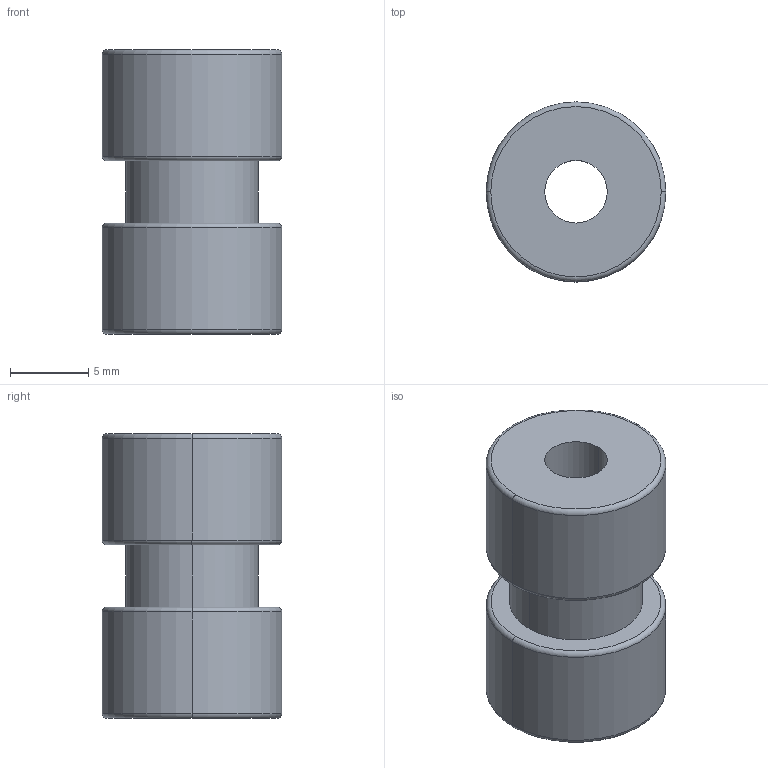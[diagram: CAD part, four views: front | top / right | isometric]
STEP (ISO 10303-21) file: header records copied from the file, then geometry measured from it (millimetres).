
FILE_DESCRIPTION((''),'2;1');
FILE_NAME('DOWN-PULLY','2021-03-24T',('Saeed'),(''),'PRO/ENGINEER BY PARAMETRIC TECHNOLOGY CORPORATION, 2012130','PRO/ENGINEER BY PARAMETRIC TECHNOLOGY CORPORATION, 2012130','');
FILE_SCHEMA(('CONFIG_CONTROL_DESIGN'));
Length unit declared in the file: millimetre
Products named in the file (1): DOWN-PULLY
Bounding box: 11.5 x 11.5 x 18.2 mm (x, y, z)
Volume: 1250.2 mm3; surface area: 1192.2 mm2
Topology: 1 solids, 1 shells, 25 faces, 50 edges, 30 vertices
Faces by surface type: torus 10, cylinder 10, plane 5
Entity records: 706 total; most frequent: DIRECTION 140, CARTESIAN_POINT 105, ORIENTED_EDGE 100, AXIS2_PLACEMENT_3D 65, EDGE_CURVE 50, CIRCLE 40, VERTEX_POINT 30, EDGE_LOOP 30
